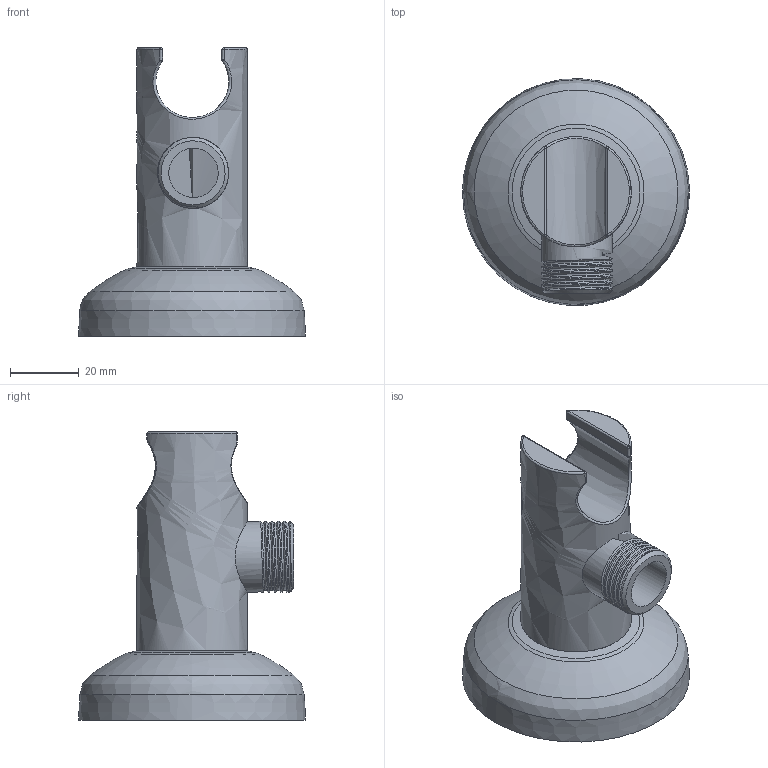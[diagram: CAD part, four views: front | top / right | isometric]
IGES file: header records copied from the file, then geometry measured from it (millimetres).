
Global section: file name: 7eff76ff-e566-47a0-8b2c-3e2f5fff1684.zip; native system: unknown; preprocessor: unknown; author: unknown; organization: unknown; date: 20191214.155257; units: millimetre
Bounding box: 65.92 x 65.83 x 83.69 mm (x, y, z)
Volume: 97596.2 mm3; surface area: 17563.8 mm2
Topology: 1 solids, 1 shells, 54 faces, 115 edges, 63 vertices
Faces by surface type: bspline 54
